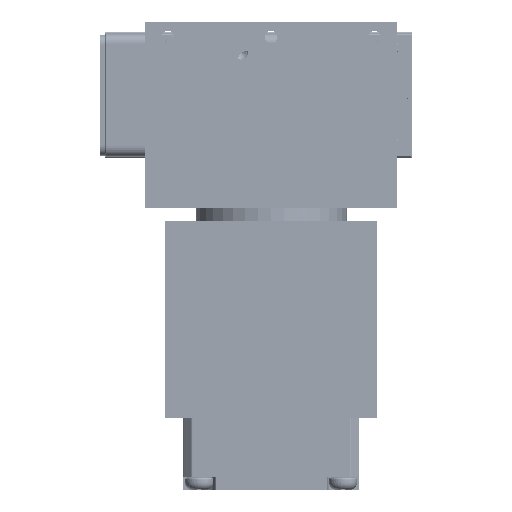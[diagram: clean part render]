
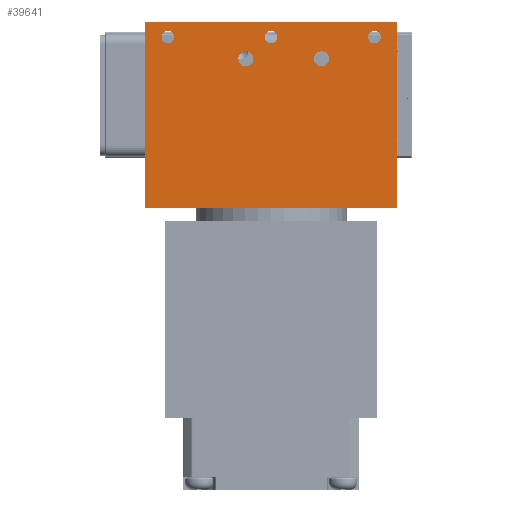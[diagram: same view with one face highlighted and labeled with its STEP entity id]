
A CAD part, front view. The second image highlights one B-rep face of the part: STEP entity #39641.
In plain terms, the highlighted planar face has unit normal (0, -1, 0).
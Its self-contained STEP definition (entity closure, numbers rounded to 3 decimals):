
#252 = AXIS2_PLACEMENT_3D ( 'NONE', #177299, #208946, #39985 ) ;
#426 = CARTESIAN_POINT ( 'NONE',  ( -46., 10., 2.5 ) ) ;
#2010 = ORIENTED_EDGE ( 'NONE', *, *, #35082, .T. ) ;
#3215 = ORIENTED_EDGE ( 'NONE', *, *, #37362, .F. ) ;
#3790 = CARTESIAN_POINT ( 'NONE',  ( -1.75, 10., 36.5 ) ) ;
#3889 = ORIENTED_EDGE ( 'NONE', *, *, #97944, .T. ) ;
#4495 = VERTEX_POINT ( 'NONE', #209830 ) ;
#7149 = VERTEX_POINT ( 'NONE', #44851 ) ;
#9624 = DIRECTION ( 'NONE',  ( 0., 1., 0. ) ) ;
#11423 = LINE ( 'NONE', #82250, #175001 ) ;
#12769 = CIRCLE ( 'NONE', #167326, 1.5 ) ;
#14015 = CIRCLE ( 'NONE', #139852, 1.25 ) ;
#14202 = CARTESIAN_POINT ( 'NONE',  ( -19.75, 10., 36.5 ) ) ;
#14589 = CARTESIAN_POINT ( 'NONE',  ( -21., 10., 36.5 ) ) ;
#15254 = AXIS2_PLACEMENT_3D ( 'NONE', #23402, #39217, #107875 ) ;
#20650 = FACE_OUTER_BOUND ( 'NONE', #142884, .T. ) ;
#20816 = VERTEX_POINT ( 'NONE', #14202 ) ;
#21761 = FACE_BOUND ( 'NONE', #37388, .T. ) ;
#22377 = AXIS2_PLACEMENT_3D ( 'NONE', #189656, #37615, #142266 ) ;
#23402 = CARTESIAN_POINT ( 'NONE',  ( -0.5, 10., 36.5 ) ) ;
#26522 = ORIENTED_EDGE ( 'NONE', *, *, #207375, .T. ) ;
#30076 = AXIS2_PLACEMENT_3D ( 'NONE', #52283, #86029, #137840 ) ;
#30437 = AXIS2_PLACEMENT_3D ( 'NONE', #221240, #33183, #137845 ) ;
#33183 = DIRECTION ( 'NONE',  ( 0., 1., 0. ) ) ;
#35082 = EDGE_CURVE ( 'NONE', #176146, #188272, #12769, .T. ) ;
#37362 = EDGE_CURVE ( 'NONE', #4495, #7149, #60727, .T. ) ;
#37388 = EDGE_LOOP ( 'NONE', ( #85499, #101861 ) ) ;
#37615 = DIRECTION ( 'NONE',  ( 0., 1., 0. ) ) ;
#37709 = AXIS2_PLACEMENT_3D ( 'NONE', #80464, #148089, #149179 ) ;
#39217 = DIRECTION ( 'NONE',  ( 0., 1., 0. ) ) ;
#39641 = ADVANCED_FACE ( 'NONE', ( #75733, #143302, #174868, #122003, #20650, #21761 ), #107310, .T. ) ;
#39985 = DIRECTION ( 'NONE',  ( -1., 0., 0. ) ) ;
#40671 = ORIENTED_EDGE ( 'NONE', *, *, #103575, .F. ) ;
#42850 = CARTESIAN_POINT ( 'NONE',  ( -46., 10., 2.5 ) ) ;
#42943 = EDGE_CURVE ( 'NONE', #145871, #172997, #80723, .T. ) ;
#44851 = CARTESIAN_POINT ( 'NONE',  ( 4., 10., 2.5 ) ) ;
#46337 = DIRECTION ( 'NONE',  ( 0., 1., 0. ) ) ;
#46887 = VERTEX_POINT ( 'NONE', #3790 ) ;
#48457 = DIRECTION ( 'NONE',  ( 0., 1., 0. ) ) ;
#49627 = CARTESIAN_POINT ( 'NONE',  ( -22.25, 10., 36.5 ) ) ;
#51645 = VERTEX_POINT ( 'NONE', #92961 ) ;
#52283 = CARTESIAN_POINT ( 'NONE',  ( -0.5, 10., 36.5 ) ) ;
#57062 = CARTESIAN_POINT ( 'NONE',  ( 0.75, 10., 36.5 ) ) ;
#60727 = LINE ( 'NONE', #215006, #196424 ) ;
#66807 = LINE ( 'NONE', #426, #136155 ) ;
#72414 = DIRECTION ( 'NONE',  ( 1., 0., 0. ) ) ;
#75733 = FACE_BOUND ( 'NONE', #161974, .T. ) ;
#76502 = EDGE_CURVE ( 'NONE', #83430, #7149, #123581, .T. ) ;
#76790 = VECTOR ( 'NONE', #157354, 1000. ) ;
#78693 = DIRECTION ( 'NONE',  ( 0., 0., -1. ) ) ;
#80464 = CARTESIAN_POINT ( 'NONE',  ( -41.5, 10., 36.5 ) ) ;
#80723 = CIRCLE ( 'NONE', #30437, 1.25 ) ;
#80963 = CARTESIAN_POINT ( 'NONE',  ( -27.5, 10., 32.2 ) ) ;
#81138 = DIRECTION ( 'NONE',  ( 1., 0., 0. ) ) ;
#82250 = CARTESIAN_POINT ( 'NONE',  ( -46., 10., 39.5 ) ) ;
#83430 = VERTEX_POINT ( 'NONE', #42850 ) ;
#84030 = CIRCLE ( 'NONE', #30076, 1.25 ) ;
#85499 = ORIENTED_EDGE ( 'NONE', *, *, #124924, .T. ) ;
#86029 = DIRECTION ( 'NONE',  ( 0., 1., 0. ) ) ;
#87626 = DIRECTION ( 'NONE',  ( -1., 0., 0. ) ) ;
#88053 = EDGE_CURVE ( 'NONE', #46887, #180481, #90730, .T. ) ;
#90730 = CIRCLE ( 'NONE', #15254, 1.25 ) ;
#92961 = CARTESIAN_POINT ( 'NONE',  ( -12.5, 10., 32.2 ) ) ;
#96420 = CIRCLE ( 'NONE', #182749, 1.5 ) ;
#96929 = DIRECTION ( 'NONE',  ( -1., 0., 0. ) ) ;
#97252 = CIRCLE ( 'NONE', #252, 1.5 ) ;
#97944 = EDGE_CURVE ( 'NONE', #188272, #176146, #97252, .T. ) ;
#98903 = EDGE_LOOP ( 'NONE', ( #187238, #181016 ) ) ;
#101861 = ORIENTED_EDGE ( 'NONE', *, *, #42943, .T. ) ;
#103575 = EDGE_CURVE ( 'NONE', #205537, #4495, #11423, .T. ) ;
#107310 = PLANE ( 'NONE',  #182880 ) ;
#107769 = CARTESIAN_POINT ( 'NONE',  ( -46., 10., 2.5 ) ) ;
#107875 = DIRECTION ( 'NONE',  ( -1., 0., 0. ) ) ;
#108784 = ORIENTED_EDGE ( 'NONE', *, *, #76502, .T. ) ;
#115019 = CARTESIAN_POINT ( 'NONE',  ( -11., 10., 32.2 ) ) ;
#119452 = CIRCLE ( 'NONE', #22377, 1.5 ) ;
#122003 = FACE_BOUND ( 'NONE', #150875, .T. ) ;
#122695 = ORIENTED_EDGE ( 'NONE', *, *, #161059, .T. ) ;
#123581 = LINE ( 'NONE', #107769, #76790 ) ;
#124924 = EDGE_CURVE ( 'NONE', #172997, #145871, #138310, .T. ) ;
#133057 = DIRECTION ( 'NONE',  ( -1., 0., 0. ) ) ;
#135511 = DIRECTION ( 'NONE',  ( 0., 0., -1. ) ) ;
#136155 = VECTOR ( 'NONE', #135511, 1000. ) ;
#136429 = CARTESIAN_POINT ( 'NONE',  ( -40.25, 10., 36.5 ) ) ;
#137840 = DIRECTION ( 'NONE',  ( -1., 0., 0. ) ) ;
#137845 = DIRECTION ( 'NONE',  ( -1., 0., 0. ) ) ;
#138083 = CARTESIAN_POINT ( 'NONE',  ( -21., 10., 36.5 ) ) ;
#138310 = CIRCLE ( 'NONE', #37709, 1.25 ) ;
#139780 = ORIENTED_EDGE ( 'NONE', *, *, #221251, .T. ) ;
#139852 = AXIS2_PLACEMENT_3D ( 'NONE', #14589, #9624, #87626 ) ;
#142266 = DIRECTION ( 'NONE',  ( -1., 0., 0. ) ) ;
#142570 = EDGE_CURVE ( 'NONE', #190212, #51645, #96420, .T. ) ;
#142884 = EDGE_LOOP ( 'NONE', ( #3215, #40671, #139780, #108784 ) ) ;
#143302 = FACE_BOUND ( 'NONE', #222690, .T. ) ;
#145871 = VERTEX_POINT ( 'NONE', #136429 ) ;
#148089 = DIRECTION ( 'NONE',  ( 0., 1., 0. ) ) ;
#149179 = DIRECTION ( 'NONE',  ( -1., 0., 0. ) ) ;
#150875 = EDGE_LOOP ( 'NONE', ( #26522, #122695 ) ) ;
#156899 = CARTESIAN_POINT ( 'NONE',  ( -46., 10., 2.5 ) ) ;
#157354 = DIRECTION ( 'NONE',  ( 1., 0., 0. ) ) ;
#159995 = VERTEX_POINT ( 'NONE', #49627 ) ;
#161059 = EDGE_CURVE ( 'NONE', #20816, #159995, #14015, .T. ) ;
#161974 = EDGE_LOOP ( 'NONE', ( #2010, #3889 ) ) ;
#167130 = CARTESIAN_POINT ( 'NONE',  ( -42.75, 10., 36.5 ) ) ;
#167326 = AXIS2_PLACEMENT_3D ( 'NONE', #204986, #48457, #96929 ) ;
#168294 = CARTESIAN_POINT ( 'NONE',  ( -24.5, 10., 32.2 ) ) ;
#169633 = DIRECTION ( 'NONE',  ( 0., 1., 0. ) ) ;
#172397 = CIRCLE ( 'NONE', #201203, 1.25 ) ;
#172997 = VERTEX_POINT ( 'NONE', #167130 ) ;
#174868 = FACE_BOUND ( 'NONE', #98903, .T. ) ;
#175001 = VECTOR ( 'NONE', #81138, 1000. ) ;
#176146 = VERTEX_POINT ( 'NONE', #80963 ) ;
#177299 = CARTESIAN_POINT ( 'NONE',  ( -26., 10., 32.2 ) ) ;
#180481 = VERTEX_POINT ( 'NONE', #57062 ) ;
#181016 = ORIENTED_EDGE ( 'NONE', *, *, #188366, .T. ) ;
#182749 = AXIS2_PLACEMENT_3D ( 'NONE', #115019, #46337, #133057 ) ;
#182880 = AXIS2_PLACEMENT_3D ( 'NONE', #156899, #212022, #72414 ) ;
#183963 = ORIENTED_EDGE ( 'NONE', *, *, #196790, .T. ) ;
#186548 = DIRECTION ( 'NONE',  ( -1., 0., 0. ) ) ;
#187238 = ORIENTED_EDGE ( 'NONE', *, *, #88053, .T. ) ;
#188272 = VERTEX_POINT ( 'NONE', #168294 ) ;
#188366 = EDGE_CURVE ( 'NONE', #180481, #46887, #84030, .T. ) ;
#189656 = CARTESIAN_POINT ( 'NONE',  ( -11., 10., 32.2 ) ) ;
#189853 = CARTESIAN_POINT ( 'NONE',  ( -46., 10., 39.5 ) ) ;
#190212 = VERTEX_POINT ( 'NONE', #201502 ) ;
#196424 = VECTOR ( 'NONE', #78693, 1000. ) ;
#196790 = EDGE_CURVE ( 'NONE', #51645, #190212, #119452, .T. ) ;
#199088 = ORIENTED_EDGE ( 'NONE', *, *, #142570, .T. ) ;
#201203 = AXIS2_PLACEMENT_3D ( 'NONE', #138083, #169633, #186548 ) ;
#201502 = CARTESIAN_POINT ( 'NONE',  ( -9.5, 10., 32.2 ) ) ;
#204986 = CARTESIAN_POINT ( 'NONE',  ( -26., 10., 32.2 ) ) ;
#205537 = VERTEX_POINT ( 'NONE', #189853 ) ;
#207375 = EDGE_CURVE ( 'NONE', #159995, #20816, #172397, .T. ) ;
#208946 = DIRECTION ( 'NONE',  ( 0., 1., 0. ) ) ;
#209830 = CARTESIAN_POINT ( 'NONE',  ( 4., 10., 39.5 ) ) ;
#212022 = DIRECTION ( 'NONE',  ( 0., -1., 0. ) ) ;
#215006 = CARTESIAN_POINT ( 'NONE',  ( 4., 10., 2.5 ) ) ;
#221240 = CARTESIAN_POINT ( 'NONE',  ( -41.5, 10., 36.5 ) ) ;
#221251 = EDGE_CURVE ( 'NONE', #205537, #83430, #66807, .T. ) ;
#222690 = EDGE_LOOP ( 'NONE', ( #183963, #199088 ) ) ;
